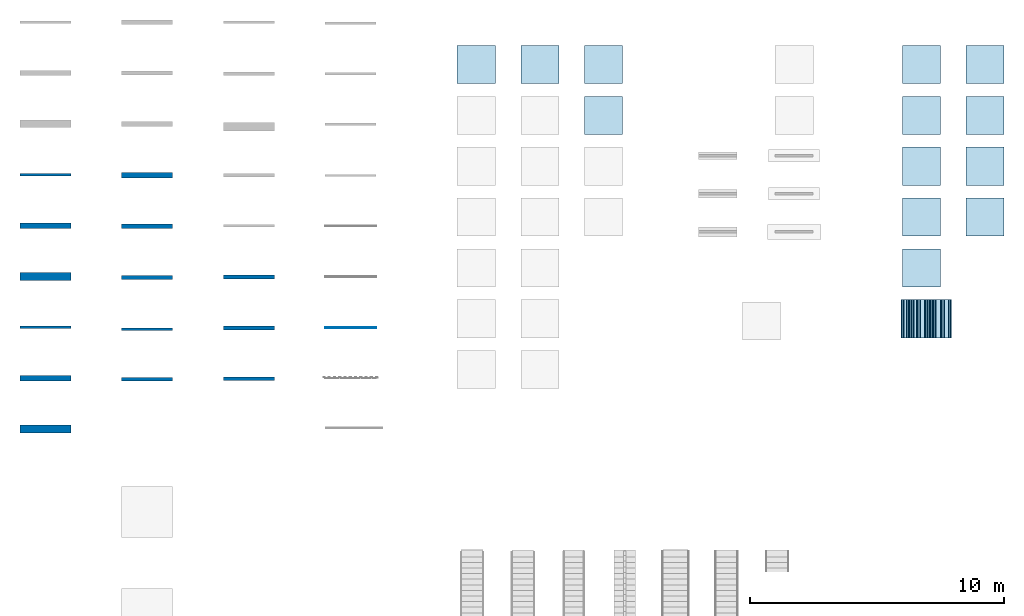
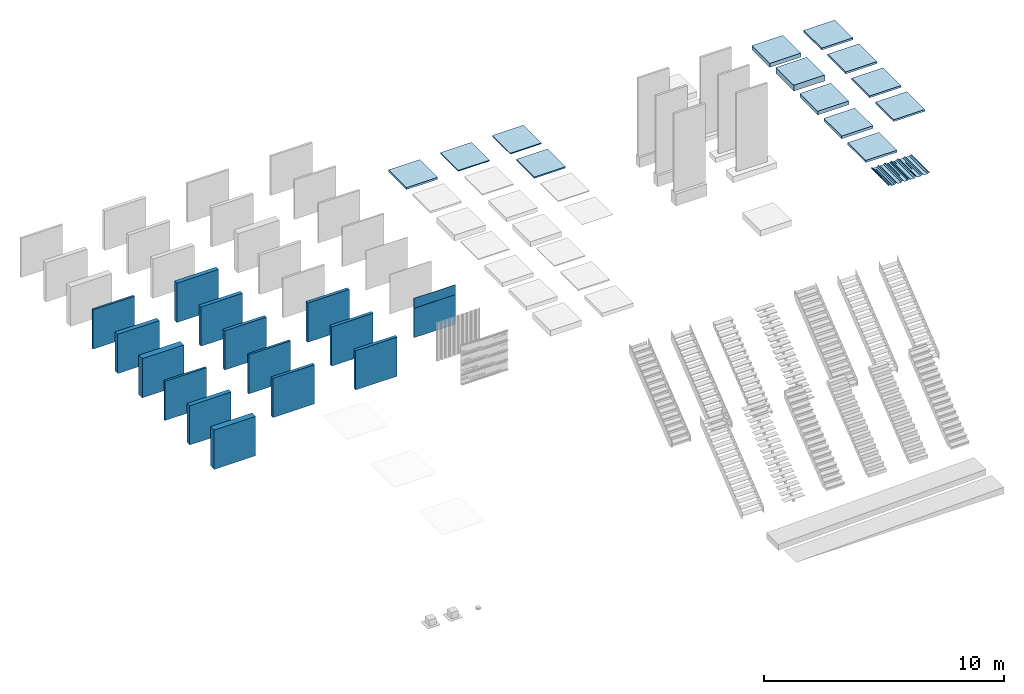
# One storey, part 4 of 13: 16 walls, 13 slabs, 2 plates, 10 elements without a shape of their own.
"""IFC2X3 building model written with IfcOpenShell, lengths in millimetres."""

from ifc_helpers import new_model, entity, si_unit, converted_unit, derived_unit, direction, frame, frame_2d, origin, origin_2d_with_axis, place, context, subcontext, project, spatial, polyline, rectangle, outline, extrude, source, transform, mapped, material, layer, layer_set, layer_usage, type_object, type_shapes, element, aggregate, save


model = new_model("IFC2X3")

# Units and contexts
model_context = context("Model", 3, precision=0.01, world=origin(), true_north=direction((6.12303176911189e-17, 1.0)))
body_context = subcontext(model_context, "Body", "Model", "MODEL_VIEW")
ifc_project = project(units=[si_unit("LENGTHUNIT", "METRE", prefix="MILLI"), si_unit("AREAUNIT", "SQUARE_METRE"), si_unit("VOLUMEUNIT", "CUBIC_METRE"), converted_unit("PLANEANGLEUNIT", "DEGREE", entity("IfcRatioMeasure", 0.0174532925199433), si_unit("PLANEANGLEUNIT", "RADIAN"), dimensions=[0, 0, 0, 0, 0, 0, 0]), si_unit("MASSUNIT", "GRAM", prefix="KILO"), si_unit("TIMEUNIT", "SECOND"), si_unit("FREQUENCYUNIT", "HERTZ"), si_unit("THERMODYNAMICTEMPERATUREUNIT", "KELVIN"), derived_unit("THERMALTRANSMITTANCEUNIT", [(si_unit("MASSUNIT", "GRAM", prefix="KILO"), 1), (si_unit("THERMODYNAMICTEMPERATUREUNIT", "KELVIN"), -1), (si_unit("TIMEUNIT", "SECOND"), -3)]), derived_unit("VOLUMETRICFLOWRATEUNIT", [(si_unit("LENGTHUNIT", "METRE"), 3), (si_unit("TIMEUNIT", "SECOND"), -1)]), si_unit("ELECTRICCURRENTUNIT", "AMPERE"), si_unit("ELECTRICVOLTAGEUNIT", "VOLT"), si_unit("POWERUNIT", "WATT")], contexts=[model_context])

# Site, building, storey
site_placement = place(None, origin())
site = spatial("IfcSite", under=ifc_project, at=site_placement, Name="Surface", CompositionType="ELEMENT")
building_placement = place(site_placement, origin())
building = spatial("IfcBuilding", under=site, at=building_placement, CompositionType="ELEMENT")
storey_placement = place(building_placement, origin())
storey = spatial("IfcBuildingStorey", under=building, at=storey_placement, Name="00_begane grond", CompositionType="ELEMENT", Elevation=0.0)

# Roof, plates
curtain_wall_type = type_object("IfcCurtainWallType", Name="Sloped Glazing:27_CW_SAB58KD_945mm", PredefinedType="NOTDEFINED")
roof_1_placement = place(storey_placement, origin())
roof_1 = element("IfcRoof", 1, at=roof_1_placement, inside=storey, type_object=curtain_wall_type, Name="Sloped Glazing:27_CW_SAB58KD_945mm", ObjectType="Sloped Glazing:27_CW_SAB58KD_945mm:1393", ShapeType="NOTDEFINED")
plate_type_1 = type_object("IfcPlateType", Name="SAB58KD_945", PredefinedType="NOTDEFINED")
shared_shape_1 = source(origin(), body_context, "Body", "SweptSolid", [
    extrude(outline(polyline([(-41.6883369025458, -6.31626557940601), (-38.0537855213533, -6.31626557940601), (-6.51645922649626, 14.7086186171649), (-5.11855484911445, 18.063589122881), (44.5780594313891, 51.1946653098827), (119.78533029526, 31.0648525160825), (162.475119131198, 59.5247117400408), (172.819626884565, 136.689043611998), (222.51559042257, 169.819685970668), (226.150141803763, 169.819685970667), (257.68746809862, 190.844570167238), (259.085372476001, 194.199540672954), (308.781608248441, 227.330364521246), (383.988986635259, 207.200623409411), (416.028687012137, 228.560423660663), (397.342743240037, 286.371121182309), (408.300957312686, 293.676597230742), (418.90416186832, 283.514998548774), (420.28798638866, 284.958961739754), (408.526464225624, 296.23063602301), (394.974288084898, 287.195851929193), (413.660231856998, 229.385154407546), (383.632257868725, 209.366505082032), (308.424879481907, 229.496246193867), (257.472122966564, 195.527741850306), (256.074218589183, 192.17277134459), (225.544590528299, 171.819685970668), (221.910039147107, 171.819685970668), (170.95755361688, 137.851362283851), (160.613045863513, 60.6870304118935), (119.428602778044, 33.2307350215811), (44.2213319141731, 53.3605478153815), (-6.73180435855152, 19.3917903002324), (-8.12970873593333, 16.0368197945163), (-38.6593367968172, -4.31626557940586), (-42.2938881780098, -4.31626557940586), (-93.2479062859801, -38.2856109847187), (-103.592414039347, -115.449942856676), (-144.776857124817, -142.906238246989), (-219.984127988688, -122.776425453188), (-270.937264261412, -156.745182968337), (-272.335168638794, -160.100153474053), (-302.864796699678, -180.453238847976), (-306.49934808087, -180.453238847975), (-357.44939838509, -214.419939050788), (-368.151786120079, -294.22655842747), (-407.873068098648, -320.707413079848), (-423.86478432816, -316.569685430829), (-432.461053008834, -311.156883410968), (-433.526726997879, -312.849319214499), (-424.667084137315, -318.427959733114), (-407.507999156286, -322.867734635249), (-366.289758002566, -295.388907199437), (-355.587370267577, -215.582287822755), (-305.893796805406, -182.453238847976), (-302.259245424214, -182.453238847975), (-270.721919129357, -161.428354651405), (-269.324014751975, -158.073384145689), (-219.627400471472, -124.942307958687), (-144.420129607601, -145.072120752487), (-101.730340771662, -116.612261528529), (-91.3858330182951, -39.4479296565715), (-41.6883369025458, -6.31626557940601)])), frame((534.253619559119, 42.597426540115, 0.0), z_axis=(0.0, 0.0, 1.0), x_axis=(0.832050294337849, -0.55470019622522, 0.0)), (0.0, 0.0, 1.0), 1500.0),
])
type_shapes(plate_type_1, [shared_shape_1])
plate_1_placement = place(roof_1_placement, frame((34647.8084880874, -13415.0, 64.0), z_axis=(0.0, 1.0, 0.0), x_axis=(1.0, 0.0, 0.0)))
plate_1 = element("IfcPlate", 2, at=plate_1_placement, type_object=plate_type_1, Name="27_CWP_SAB58KD_945:SAB58KD_945", ObjectType="SAB58KD_945", context=body_context, shape_type="MappedRepresentation", body=[
    mapped(shared_shape_1, transform((0.0, 0.0, 0.0), scale=1.0)),
])
plate_type_2 = type_object("IfcPlateType", Name="SAB58KD_945", PredefinedType="NOTDEFINED")
shared_shape_2 = source(origin(), body_context, "Body", "SweptSolid", [
    extrude(outline(polyline([(-41.688336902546, -6.31626557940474), (-38.0537855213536, -6.31626557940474), (-6.51645922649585, 14.7086186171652), (-5.11855484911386, 18.0635891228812), (44.5780594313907, 51.1946653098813), (119.785330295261, 31.0648525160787), (162.4751191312, 59.5247117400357), (172.819626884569, 136.689043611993), (222.515590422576, 169.819685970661), (226.150141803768, 169.81968597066), (257.687468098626, 190.84457016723), (259.085372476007, 194.199540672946), (308.781608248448, 227.330364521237), (383.988986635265, 207.200623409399), (416.028687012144, 228.56042366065), (397.342743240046, 286.371121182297), (408.300957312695, 293.676597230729), (418.904161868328, 283.514998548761), (420.287986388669, 284.958961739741), (408.526464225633, 296.230636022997), (394.974288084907, 287.19585192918), (413.660231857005, 229.385154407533), (383.632257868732, 209.36650508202), (308.424879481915, 229.496246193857), (257.47212296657, 195.527741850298), (256.074218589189, 192.172771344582), (225.544590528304, 171.81968597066), (221.910039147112, 171.819685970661), (170.957553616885, 137.851362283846), (160.613045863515, 60.6870304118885), (119.428602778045, 33.2307350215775), (44.2213319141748, 53.3605478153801), (-6.73180435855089, 19.3917903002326), (-8.1297087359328, 16.0368197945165), (-38.6593367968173, -4.31626557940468), (-42.2938881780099, -4.31626557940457), (-93.2479062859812, -38.2856109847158), (-103.592414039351, -115.449942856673), (-144.776857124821, -142.906238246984), (-219.984127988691, -122.776425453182), (-270.937264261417, -156.745182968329), (-272.335168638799, -160.100153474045), (-302.864796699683, -180.453238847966), (-306.499348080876, -180.453238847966), (-357.449398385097, -214.419939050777), (-368.151786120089, -294.226558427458), (-407.873068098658, -320.707413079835), (-423.86478432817, -316.569685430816), (-432.461053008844, -311.156883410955), (-433.526726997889, -312.849319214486), (-424.667084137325, -318.427959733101), (-407.507999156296, -322.867734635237), (-366.289758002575, -295.388907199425), (-355.587370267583, -215.582287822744), (-305.893796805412, -182.453238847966), (-302.259245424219, -182.453238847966), (-270.721919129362, -161.428354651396), (-269.32401475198, -158.07338414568), (-219.627400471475, -124.94230795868), (-144.420129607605, -145.072120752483), (-101.730340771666, -116.612261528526), (-91.3858330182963, -39.4479296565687), (-41.688336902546, -6.31626557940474)])), frame((534.253619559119, 42.597426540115, 0.0), z_axis=(0.0, 0.0, 1.0), x_axis=(0.832050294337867, -0.554700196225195, 0.0)), (0.0, 0.0, 1.0), 1500.0),
])
type_shapes(plate_type_2, [shared_shape_2])
plate_2_placement = place(roof_1_placement, frame((35592.8084880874, -13415.0, 64.0), z_axis=(0.0, 1.0, 0.0), x_axis=(1.0, 0.0, 0.0)))
plate_2 = element("IfcPlate", 3, at=plate_2_placement, type_object=plate_type_2, Name="27_CWP_SAB58KD_945:SAB58KD_945", ObjectType="SAB58KD_945", context=body_context, shape_type="MappedRepresentation", body=[
    mapped(shared_shape_2, transform((0.0, 0.0, 0.0), scale=1.0)),
])
aggregate(roof_1, [plate_1, plate_2])

# Slabs
ifc_material_1 = material(Name="Default")
ifc_layer_1 = layer(ifc_material_1, 100.0)
ifc_layer_set_1 = layer_set([ifc_layer_1], Name="Floor:13_FL_generiek_100")
ifc_layer_usage_1 = layer_usage(ifc_layer_set_1, "AXIS3", "POSITIVE", 0.0)
slab_1_placement = place(storey_placement, origin())
element("IfcSlab", 4, at=slab_1_placement, inside=storey, material=ifc_layer_usage_1, Name="Floor:13_FL_generiek_100", ObjectType="Floor:13_FL_generiek_100", PredefinedType="FLOOR", context=body_context, shape_type="SweptSolid", body=[
    extrude(rectangle(XDim=1500.0, YDim=1500.0, at=frame_2d((-1.13686837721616e-13, 0.0), x_axis=(1.0, 0.0))), frame((17943.3473849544, -2665.0, 0.0), z_axis=(0.0, 0.0, -1.0), x_axis=(0.0, 1.0, 0.0)), (0.0, 0.0, 1.0), 100.0),
])
ifc_material_2 = material(Name="28_beton_prefab_C45_55")
ifc_layer_2 = layer(ifc_material_2, 50.0)
ifc_layer_set_2 = layer_set([ifc_layer_2], Name="Floor:23_FL_breedplaat_50")
ifc_layer_usage_2 = layer_usage(ifc_layer_set_2, "AXIS3", "POSITIVE", 0.0)
slab_2_placement = place(storey_placement, origin())
element("IfcSlab", 5, at=slab_2_placement, inside=storey, material=ifc_layer_usage_2, Name="Floor:23_FL_breedplaat_50", ObjectType="Floor:23_FL_breedplaat_50", PredefinedType="FLOOR", context=body_context, shape_type="SweptSolid", body=[
    extrude(rectangle(XDim=1500.0, YDim=1500.00000000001, at=frame_2d((-1.13686837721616e-13, 0.0), x_axis=(1.0, 0.0))), frame((20443.3473849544, -2665.0, 0.0), z_axis=(0.0, 0.0, -1.0), x_axis=(0.0, 1.0, 0.0)), (0.0, 0.0, 1.0), 50.0),
])
ifc_material_3 = material(Name="43_dekvloer_zandcement")
ifc_layer_3 = layer(ifc_material_3, 50.0)
ifc_layer_set_3 = layer_set([ifc_layer_3], Name="Floor:43_FL_cementdekvloer_50")
ifc_layer_usage_3 = layer_usage(ifc_layer_set_3, "AXIS3", "POSITIVE", 0.0)
slab_3_placement = place(storey_placement, origin())
element("IfcSlab", 6, at=slab_3_placement, inside=storey, material=ifc_layer_usage_3, Name="Floor:43_FL_cementdekvloer_50", ObjectType="Floor:43_FL_cementdekvloer_50", PredefinedType="FLOOR", context=body_context, shape_type="SweptSolid", body=[
    extrude(rectangle(XDim=1500.0, YDim=1500.00000000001, at=frame_2d((1.70530256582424e-13, 0.0), x_axis=(1.0, 0.0))), frame((22943.3473849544, -2665.0, 0.0), z_axis=(0.0, 0.0, -1.0), x_axis=(0.0, 1.0, 0.0)), (0.0, 0.0, 1.0), 50.0),
])
ifc_layer_4 = layer(ifc_material_3, 70.0)
ifc_layer_set_4 = layer_set([ifc_layer_4], Name="Floor:43_FL_cementdekvloer_70")
ifc_layer_usage_4 = layer_usage(ifc_layer_set_4, "AXIS3", "POSITIVE", 0.0)
slab_4_placement = place(storey_placement, origin())
element("IfcSlab", 7, at=slab_4_placement, inside=storey, material=ifc_layer_usage_4, Name="Floor:43_FL_cementdekvloer_70", ObjectType="Floor:43_FL_cementdekvloer_70", PredefinedType="FLOOR", context=body_context, shape_type="SweptSolid", body=[
    extrude(rectangle(XDim=1500.0, YDim=1500.00000000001, at=origin_2d_with_axis()), frame((22943.3473849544, -4665.0, 0.0), z_axis=(0.0, 0.0, -1.0), x_axis=(0.0, 1.0, 0.0)), (0.0, 0.0, 1.0), 70.0),
])

# Roof, slab
roof_2_placement = place(storey_placement, frame((34693.3473849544, -3415.0, 0.0)))
roof_2 = element("IfcRoof", 8, at=roof_2_placement, inside=storey, Name="Basic Roof:27_RO_generiek_200", ObjectType="Basic Roof:27_RO_generiek_200", ShapeType="NOTDEFINED")
ifc_layer_5 = layer(ifc_material_1, 200.0)
ifc_layer_set_5 = layer_set([ifc_layer_5], Name="Basic Roof:27_RO_generiek_200")
slab_5_placement = place(roof_2_placement, origin())
slab_5 = element("IfcSlab", 9, at=slab_5_placement, material=ifc_layer_set_5, Name="Basic Roof:27_RO_generiek_200", ObjectType="Basic Roof:27_RO_generiek_200", PredefinedType="ROOF", context=body_context, shape_type="SweptSolid", body=[
    extrude(rectangle(XDim=1500.0, YDim=1500.0, at=frame_2d((-2.1600499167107e-12, 0.0), x_axis=(1.0, 0.0))), frame((750.0, 750.0, 0.0)), (0.0, 0.0, 1.0), 200.0),
])
aggregate(roof_2, [slab_5])

roof_3_placement = place(storey_placement, frame((34693.3473849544, -5415.0, 0.0)))
roof_3 = element("IfcRoof", 10, at=roof_3_placement, inside=storey, Name="Basic Roof:27_RO_generiek_300", ObjectType="Basic Roof:27_RO_generiek_300", ShapeType="NOTDEFINED")
ifc_layer_6 = layer(ifc_material_1, 300.0)
ifc_layer_set_6 = layer_set([ifc_layer_6], Name="Basic Roof:27_RO_generiek_300")
slab_6_placement = place(roof_3_placement, origin())
slab_6 = element("IfcSlab", 11, at=slab_6_placement, material=ifc_layer_set_6, Name="Basic Roof:27_RO_generiek_300", ObjectType="Basic Roof:27_RO_generiek_300", PredefinedType="ROOF", context=body_context, shape_type="SweptSolid", body=[
    extrude(rectangle(XDim=1500.0, YDim=1500.0, at=frame_2d((2.1600499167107e-12, 0.0), x_axis=(1.0, 0.0))), frame((750.0, 750.0, 0.0)), (0.0, 0.0, 1.0), 300.0),
])
aggregate(roof_3, [slab_6])

roof_4_placement = place(storey_placement, frame((37193.3473849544, -3415.0, 0.0)))
roof_4 = element("IfcRoof", 12, at=roof_4_placement, inside=storey, Name="Basic Roof:47_RO_isolatie_PIR_bitumen_82_80-2", ObjectType="Basic Roof:47_RO_isolatie_PIR_bitumen_82_80-2", ShapeType="NOTDEFINED")
ifc_material_4 = material(Name="47_bitumen")
ifc_layer_7 = layer(ifc_material_4, 2.0)
ifc_material_5 = material(Name="20_isolatie_PIR")
ifc_layer_8 = layer(ifc_material_5, 100.0)
ifc_layer_set_7 = layer_set([ifc_layer_7, ifc_layer_8], Name="Basic Roof:47_RO_isolatie_PIR_bitumen_82_80-2")
slab_7_placement = place(roof_4_placement, origin())
slab_7 = element("IfcSlab", 13, at=slab_7_placement, material=ifc_layer_set_7, Name="Basic Roof:47_RO_isolatie_PIR_bitumen_82_80-2", ObjectType="Basic Roof:47_RO_isolatie_PIR_bitumen_82_80-2", PredefinedType="ROOF", context=body_context, shape_type="SweptSolid", body=[
    extrude(rectangle(XDim=1500.0, YDim=1500.0, at=frame_2d((2.1600499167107e-12, 0.0), x_axis=(1.0, 0.0))), frame((750.0, 750.0, 0.0)), (0.0, 0.0, 1.0), 102.0),
])
aggregate(roof_4, [slab_7])

roof_5_placement = place(storey_placement, frame((37193.3473849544, -5415.0, 0.0)))
roof_5 = element("IfcRoof", 14, at=roof_5_placement, inside=storey, Name="Basic Roof:47_RO_isolatie_EPS_bitumen_102_100-2", ObjectType="Basic Roof:47_RO_isolatie_EPS_bitumen_102_100-2", ShapeType="NOTDEFINED")
ifc_layer_9 = layer(ifc_material_4, 2.0)
ifc_material_6 = material(Name="20_isolatie_EPS")
ifc_layer_10 = layer(ifc_material_6, 100.0)
ifc_layer_set_8 = layer_set([ifc_layer_9, ifc_layer_10], Name="Basic Roof:47_RO_isolatie_EPS_bitumen_102_100-2")
slab_8_placement = place(roof_5_placement, origin())
slab_8 = element("IfcSlab", 15, at=slab_8_placement, material=ifc_layer_set_8, Name="Basic Roof:47_RO_isolatie_EPS_bitumen_102_100-2", ObjectType="Basic Roof:47_RO_isolatie_EPS_bitumen_102_100-2", PredefinedType="ROOF", context=body_context, shape_type="SweptSolid", body=[
    extrude(rectangle(XDim=1500.0, YDim=1500.0, at=frame_2d((-2.1600499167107e-12, 0.0), x_axis=(1.0, 0.0))), frame((750.0, 750.0, 0.0)), (0.0, 0.0, 1.0), 102.0),
])
aggregate(roof_5, [slab_8])

roof_6_placement = place(storey_placement, frame((34693.3473849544, -7415.0, 0.0)))
roof_6 = element("IfcRoof", 16, at=roof_6_placement, inside=storey, Name="Basic Roof:27_RO_hout_underlayment_189_171-18", ObjectType="Basic Roof:27_RO_hout_underlayment_189_171-18", ShapeType="NOTDEFINED")
ifc_material_7 = material(Name="27_beplating_underlayment")
ifc_layer_11 = layer(ifc_material_7, 18.0)
ifc_material_8 = material(Name="27_houten_balklaag_geventileerd")
ifc_layer_12 = layer(ifc_material_8, 171.0)
ifc_layer_set_9 = layer_set([ifc_layer_11, ifc_layer_12], Name="Basic Roof:27_RO_hout_underlayment_189_171-18")
slab_9_placement = place(roof_6_placement, origin())
slab_9 = element("IfcSlab", 17, at=slab_9_placement, material=ifc_layer_set_9, Name="Basic Roof:27_RO_hout_underlayment_189_171-18", ObjectType="Basic Roof:27_RO_hout_underlayment_189_171-18", PredefinedType="ROOF", context=body_context, shape_type="SweptSolid", body=[
    extrude(rectangle(XDim=1500.0, YDim=1500.0, at=frame_2d((-2.1600499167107e-12, 0.0), x_axis=(1.0, 0.0))), frame((750.0, 750.0, 0.0)), (0.0, 0.0, 1.0), 189.0),
])
aggregate(roof_6, [slab_9])

roof_7_placement = place(storey_placement, frame((34693.3473849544, -9415.0, 0.0)))
roof_7 = element("IfcRoof", 18, at=roof_7_placement, inside=storey, Name="Basic Roof:27_RO_dakplaat_enkelschalig_PIR_135_33-90-12", ObjectType="Basic Roof:27_RO_dakplaat_enkelschalig_PIR_135_33-90-12", ShapeType="NOTDEFINED")
ifc_material_9 = material(Name="00_lucht_spouw_dak_geventileerd")
ifc_layer_13 = layer(ifc_material_9, 33.0)
ifc_layer_14 = layer(ifc_material_5, 90.0)
ifc_material_10 = material(Name="20_beplating_MDF")
ifc_layer_15 = layer(ifc_material_10, 12.0)
ifc_layer_set_10 = layer_set([ifc_layer_13, ifc_layer_14, ifc_layer_15], Name="Basic Roof:27_RO_dakplaat_enkelschalig_PIR_135_33-90-12")
slab_10_placement = place(roof_7_placement, origin())
slab_10 = element("IfcSlab", 19, at=slab_10_placement, material=ifc_layer_set_10, Name="Basic Roof:27_RO_dakplaat_enkelschalig_PIR_135_33-90-12", ObjectType="Basic Roof:27_RO_dakplaat_enkelschalig_PIR_135_33-90-12", PredefinedType="ROOF", context=body_context, shape_type="SweptSolid", body=[
    extrude(rectangle(XDim=1500.0, YDim=1500.0, at=frame_2d((2.1600499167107e-12, 0.0), x_axis=(1.0, 0.0))), frame((750.0, 750.0, 0.0)), (0.0, 0.0, 1.0), 135.0),
])
aggregate(roof_7, [slab_10])

roof_8_placement = place(storey_placement, frame((37193.3473849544, -7415.0, 0.0)))
roof_8 = element("IfcRoof", 20, at=roof_8_placement, inside=storey, Name="Basic Roof:47_RO_dakpan_grijs_300x300", ObjectType="Basic Roof:47_RO_dakpan_grijs_300x300", ShapeType="NOTDEFINED")
ifc_material_11 = material(Name="47_dakpan_grijs")
ifc_layer_16 = layer(ifc_material_11, 70.0)
ifc_material_12 = material(Name="47_panlat_geventileerd")
ifc_layer_17 = layer(ifc_material_12, 22.0)
ifc_layer_set_11 = layer_set([ifc_layer_16, ifc_layer_17], Name="Basic Roof:47_RO_dakpan_grijs_300x300")
slab_11_placement = place(roof_8_placement, origin())
slab_11 = element("IfcSlab", 21, at=slab_11_placement, material=ifc_layer_set_11, Name="Basic Roof:47_RO_dakpan_grijs_300x300", ObjectType="Basic Roof:47_RO_dakpan_grijs_300x300", PredefinedType="ROOF", context=body_context, shape_type="SweptSolid", body=[
    extrude(rectangle(XDim=1500.0, YDim=1500.0, at=frame_2d((2.1600499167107e-12, 5.11590769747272e-13), x_axis=(1.0, 0.0))), frame((750.0, 750.0, 0.0)), (0.0, 0.0, 1.0), 92.0),
])
aggregate(roof_8, [slab_11])

roof_9_placement = place(storey_placement, frame((37193.3473849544, -9415.0, 0.0)))
roof_9 = element("IfcRoof", 22, at=roof_9_placement, inside=storey, Name="Basic Roof:47_RO_dakpan_rood_300x300", ObjectType="Basic Roof:47_RO_dakpan_rood_300x300", ShapeType="NOTDEFINED")
ifc_material_13 = material(Name="47_dakpan_rood")
ifc_layer_18 = layer(ifc_material_13, 70.0)
ifc_layer_19 = layer(ifc_material_12, 22.0)
ifc_layer_set_12 = layer_set([ifc_layer_18, ifc_layer_19], Name="Basic Roof:47_RO_dakpan_rood_300x300")
slab_12_placement = place(roof_9_placement, origin())
slab_12 = element("IfcSlab", 23, at=slab_12_placement, material=ifc_layer_set_12, Name="Basic Roof:47_RO_dakpan_rood_300x300", ObjectType="Basic Roof:47_RO_dakpan_rood_300x300", PredefinedType="ROOF", context=body_context, shape_type="SweptSolid", body=[
    extrude(rectangle(XDim=1500.0, YDim=1500.0, at=frame_2d((-2.1600499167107e-12, 5.11590769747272e-13), x_axis=(1.0, 0.0))), frame((750.0, 750.0, 0.0)), (0.0, 0.0, 1.0), 92.0),
])
aggregate(roof_9, [slab_12])

roof_10_placement = place(storey_placement, frame((34693.3473849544, -11415.0, 0.0)))
roof_10 = element("IfcRoof", 24, at=roof_10_placement, inside=storey, Name="Basic Roof:27_RO_dakplaat_sandwich_PIR_106_20-3-80-3", ObjectType="Basic Roof:27_RO_dakplaat_sandwich_PIR_106_20-3-80-3", ShapeType="NOTDEFINED")
ifc_material_14 = material(Name="27_tengels_geventileerd")
ifc_layer_20 = layer(ifc_material_14, 20.0)
ifc_layer_21 = layer(ifc_material_10, 3.0)
ifc_layer_22 = layer(ifc_material_5, 80.0)
ifc_layer_23 = layer(ifc_material_10, 3.0)
ifc_layer_set_13 = layer_set([ifc_layer_20, ifc_layer_21, ifc_layer_22, ifc_layer_23], Name="Basic Roof:27_RO_dakplaat_sandwich_PIR_106_20-3-80-3")
slab_13_placement = place(roof_10_placement, origin())
slab_13 = element("IfcSlab", 25, at=slab_13_placement, material=ifc_layer_set_13, Name="Basic Roof:27_RO_dakplaat_sandwich_PIR_106_20-3-80-3", ObjectType="Basic Roof:27_RO_dakplaat_sandwich_PIR_106_20-3-80-3", PredefinedType="ROOF", context=body_context, shape_type="SweptSolid", body=[
    extrude(rectangle(XDim=1500.0, YDim=1500.0, at=frame_2d((-2.1600499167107e-12, 0.0), x_axis=(1.0, 0.0))), frame((750.0, 750.0, 0.0)), (0.0, 0.0, 1.0), 106.0),
])
aggregate(roof_10, [slab_13])

# Walls
ifc_material_15 = material(Name="20_baksteen_wf_210x100x50_10mm_voeg_halfsteens_rood_genuanceerd")
ifc_layer_24 = layer(ifc_material_15, 100.0)
ifc_layer_set_14 = layer_set([ifc_layer_24], Name="Basic Wall:21_WA_mw_100")
ifc_layer_usage_5 = layer_usage(ifc_layer_set_14, "AXIS2", "NEGATIVE", 50.0)
wall_type_1 = type_object("IfcWallType", Name="Basic Wall:21_WA_mw_100", PredefinedType="STANDARD", material=ifc_layer_set_14)
wall_1_placement = place(storey_placement, frame((0.0, -13000.0, 0.0)))
element("IfcWallStandardCase", 26, at=wall_1_placement, inside=storey, type_object=wall_type_1, material=ifc_layer_usage_5, Name="Basic Wall:21_WA_mw_100", ObjectType="Basic Wall:21_WA_mw_100", context=body_context, shape_type="SweptSolid", body=[
    extrude(rectangle(XDim=2000.0, YDim=99.9999999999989, at=frame_2d((1000.0, 5.32907051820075e-13), x_axis=(-1.0, 0.0))), origin(), (0.0, 0.0, 1.0), 2000.0),
])
ifc_layer_25 = layer(ifc_material_15, 210.0)
ifc_layer_set_15 = layer_set([ifc_layer_25], Name="Basic Wall:21_WA_mw_210")
ifc_layer_usage_6 = layer_usage(ifc_layer_set_15, "AXIS2", "NEGATIVE", 105.0)
wall_type_2 = type_object("IfcWallType", Name="Basic Wall:21_WA_mw_210", PredefinedType="STANDARD", material=ifc_layer_set_15)
wall_2_placement = place(storey_placement, frame((0.0, -15000.0, 0.0)))
element("IfcWallStandardCase", 27, at=wall_2_placement, inside=storey, type_object=wall_type_2, material=ifc_layer_usage_6, Name="Basic Wall:21_WA_mw_210", ObjectType="Basic Wall:21_WA_mw_210", context=body_context, shape_type="SweptSolid", body=[
    extrude(rectangle(XDim=2000.0, YDim=210.0, at=frame_2d((1000.0, 5.32907051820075e-13), x_axis=(-1.0, 0.0))), origin(), (0.0, 0.0, 1.0), 2000.0),
])
ifc_layer_26 = layer(ifc_material_15, 100.0)
ifc_material_16 = material(Name="00_lucht_spouw_muur_geventileerd")
ifc_layer_27 = layer(ifc_material_16, 100.0)
ifc_layer_28 = layer(ifc_material_15, 100.0)
ifc_layer_set_16 = layer_set([ifc_layer_26, ifc_layer_27, ifc_layer_28], Name="Basic Wall:21_WA_mw_spouw_mw_300_100-100-100")
ifc_layer_usage_7 = layer_usage(ifc_layer_set_16, "AXIS2", "NEGATIVE", 150.0)
wall_type_3 = type_object("IfcWallType", Name="Basic Wall:21_WA_mw_spouw_mw_300_100-100-100", PredefinedType="STANDARD", material=ifc_layer_set_16)
wall_3_placement = place(storey_placement, frame((0.0, -17000.0, 0.0)))
element("IfcWallStandardCase", 28, at=wall_3_placement, inside=storey, type_object=wall_type_3, material=ifc_layer_usage_7, Name="Basic Wall:21_WA_mw_spouw_mw_300_100-100-100", ObjectType="Basic Wall:21_WA_mw_spouw_mw_300_100-100-100", context=body_context, shape_type="SweptSolid", body=[
    extrude(rectangle(XDim=2000.0, YDim=300.000000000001, at=frame_2d((1000.0, 5.40012479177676e-13), x_axis=(-1.0, 0.0))), origin(), (0.0, 0.0, 1.0), 2000.0),
])
ifc_material_17 = material(Name="00_baksteen_bestaand")
ifc_layer_29 = layer(ifc_material_17, 100.0)
ifc_layer_set_17 = layer_set([ifc_layer_29], Name="Basic Wall:21_WA_mw-bestaand_100")
ifc_layer_usage_8 = layer_usage(ifc_layer_set_17, "AXIS2", "NEGATIVE", 50.0)
wall_type_4 = type_object("IfcWallType", Name="Basic Wall:21_WA_mw-bestaand_100", PredefinedType="STANDARD", material=ifc_layer_set_17)
wall_4_placement = place(storey_placement, frame((0.0, -7000.0, 0.0)))
element("IfcWallStandardCase", 29, at=wall_4_placement, inside=storey, type_object=wall_type_4, material=ifc_layer_usage_8, Name="Basic Wall:21_WA_mw-bestaand_100", ObjectType="Basic Wall:21_WA_mw-bestaand_100", context=body_context, shape_type="SweptSolid", body=[
    extrude(rectangle(XDim=2000.0, YDim=99.9999999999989, at=frame_2d((1000.0, -7.105427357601e-15), x_axis=(-1.0, 0.0))), origin(), (0.0, 0.0, 1.0), 2000.0),
])
ifc_layer_30 = layer(ifc_material_17, 210.0)
ifc_layer_set_18 = layer_set([ifc_layer_30], Name="Basic Wall:21_WA_mw_bestaand_210")
ifc_layer_usage_9 = layer_usage(ifc_layer_set_18, "AXIS2", "NEGATIVE", 105.0)
wall_type_5 = type_object("IfcWallType", Name="Basic Wall:21_WA_mw_bestaand_210", PredefinedType="STANDARD", material=ifc_layer_set_18)
wall_5_placement = place(storey_placement, frame((0.0, -9000.0, 0.0)))
element("IfcWallStandardCase", 30, at=wall_5_placement, inside=storey, type_object=wall_type_5, material=ifc_layer_usage_9, Name="Basic Wall:21_WA_mw_bestaand_210", ObjectType="Basic Wall:21_WA_mw_bestaand_210", context=body_context, shape_type="SweptSolid", body=[
    extrude(rectangle(XDim=2000.0, YDim=210.0, at=frame_2d((1000.0, -1.4210854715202e-14), x_axis=(-1.0, 0.0))), origin(), (0.0, 0.0, 1.0), 2000.0),
])
ifc_layer_31 = layer(ifc_material_17, 100.0)
ifc_layer_32 = layer(ifc_material_16, 100.0)
ifc_layer_33 = layer(ifc_material_17, 100.0)
ifc_layer_set_19 = layer_set([ifc_layer_31, ifc_layer_32, ifc_layer_33], Name="Basic Wall:21_WA_mw-bestaand_spouw_mw-bestaand_300_100-100-100")
ifc_layer_usage_10 = layer_usage(ifc_layer_set_19, "AXIS2", "NEGATIVE", 150.0)
wall_type_6 = type_object("IfcWallType", Name="Basic Wall:21_WA_mw-bestaand_spouw_mw-bestaand_300_100-100-100", PredefinedType="STANDARD", material=ifc_layer_set_19)
wall_6_placement = place(storey_placement, frame((0.0, -11000.0, 0.0)))
element("IfcWallStandardCase", 31, at=wall_6_placement, inside=storey, type_object=wall_type_6, material=ifc_layer_usage_10, Name="Basic Wall:21_WA_mw-bestaand_spouw_mw-bestaand_300_100-100-100", ObjectType="Basic Wall:21_WA_mw-bestaand_spouw_mw-bestaand_300_100-100-100", context=body_context, shape_type="SweptSolid", body=[
    extrude(rectangle(XDim=2000.0, YDim=300.000000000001, at=frame_2d((1000.0, 5.40012479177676e-13), x_axis=(-1.0, 0.0))), origin(), (0.0, 0.0, 1.0), 2000.0),
])
ifc_layer_34 = layer(ifc_material_15, 100.0)
ifc_layer_35 = layer(ifc_material_16, 30.0)
ifc_material_18 = material(Name="20_isolatie_steenwol")
ifc_layer_36 = layer(ifc_material_18, 70.0)
ifc_layer_set_20 = layer_set([ifc_layer_34, ifc_layer_35, ifc_layer_36], Name="Basic Wall:21_WA_mw_spouw_iso-sw_200_100-30-70")
ifc_layer_usage_11 = layer_usage(ifc_layer_set_20, "AXIS2", "NEGATIVE", 100.0)
wall_type_7 = type_object("IfcWallType", Name="Basic Wall:21_WA_mw_spouw_iso-sw_200_100-30-70", PredefinedType="STANDARD", material=ifc_layer_set_20)
wall_7_placement = place(storey_placement, frame((4000.0, -7020.0, 0.0)))
element("IfcWallStandardCase", 32, at=wall_7_placement, inside=storey, type_object=wall_type_7, material=ifc_layer_usage_11, Name="Basic Wall:21_WA_mw_spouw_iso-sw_200_100-30-70", ObjectType="Basic Wall:21_WA_mw_spouw_iso-sw_200_100-30-70", context=body_context, shape_type="SweptSolid", body=[
    extrude(rectangle(XDim=2000.0, YDim=200.0, at=frame_2d((1000.0, -7.105427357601e-15), x_axis=(-1.0, 0.0))), origin(), (0.0, 0.0, 1.0), 2000.0),
])
ifc_material_19 = material(Name="41_hout_hardhout_geveldelen_donkerblauw_horizontaal")
ifc_layer_37 = layer(ifc_material_19, 20.0)
ifc_material_20 = material(Name="40_regelwerk_geventileerd")
ifc_layer_38 = layer(ifc_material_20, 30.0)
ifc_layer_39 = layer(ifc_material_20, 10.0)
ifc_layer_40 = layer(ifc_material_18, 120.0)
ifc_layer_set_21 = layer_set([ifc_layer_37, ifc_layer_38, ifc_layer_39, ifc_layer_40], Name="Basic Wall:21_WA_hout-wrc-hor_rachel_tengel_iso-sw_180_20-30-10-120")
ifc_layer_usage_12 = layer_usage(ifc_layer_set_21, "AXIS2", "NEGATIVE", 90.0)
wall_type_8 = type_object("IfcWallType", Name="Basic Wall:21_WA_hout-wrc-hor_rachel_tengel_iso-sw_180_20-30-10-120", PredefinedType="STANDARD", material=ifc_layer_set_21)
wall_8_placement = place(storey_placement, frame((4000.0, -9030.0, 0.0)))
element("IfcWallStandardCase", 33, at=wall_8_placement, inside=storey, type_object=wall_type_8, material=ifc_layer_usage_12, Name="Basic Wall:21_WA_hout-wrc-hor_rachel_tengel_iso-sw_180_20-30-10-120", ObjectType="Basic Wall:21_WA_hout-wrc-hor_rachel_tengel_iso-sw_180_20-30-10-120", context=body_context, shape_type="SweptSolid", body=[
    extrude(rectangle(XDim=2000.0, YDim=180.0, at=frame_2d((1000.0, -7.105427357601e-15), x_axis=(-1.0, 0.0))), origin(), (0.0, 0.0, 1.0), 2000.0),
])
ifc_material_21 = material(Name="40_stucwerk_exterieur_grof_wit")
ifc_layer_41 = layer(ifc_material_21, 30.0)
ifc_layer_42 = layer(ifc_material_6, 120.0)
ifc_layer_set_22 = layer_set([ifc_layer_41, ifc_layer_42], Name="Basic Wall:21_WA_stucwerk_iso-eps_150_30-120")
ifc_layer_usage_13 = layer_usage(ifc_layer_set_22, "AXIS2", "NEGATIVE", 75.0)
wall_type_9 = type_object("IfcWallType", Name="Basic Wall:21_WA_stucwerk_iso-eps_150_30-120", PredefinedType="STANDARD", material=ifc_layer_set_22)
wall_9_placement = place(storey_placement, frame((4000.0, -11045.0, 0.0)))
element("IfcWallStandardCase", 34, at=wall_9_placement, inside=storey, type_object=wall_type_9, material=ifc_layer_usage_13, Name="Basic Wall:21_WA_stucwerk_iso-eps_150_30-120", ObjectType="Basic Wall:21_WA_stucwerk_iso-eps_150_30-120", context=body_context, shape_type="SweptSolid", body=[
    extrude(rectangle(XDim=2000.0, YDim=150.000000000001, at=frame_2d((1000.0, 5.32907051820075e-13), x_axis=(-1.0, 0.0))), origin(), (0.0, 0.0, 1.0), 2000.0),
])
ifc_material_22 = material(Name="41_staal_geanodizeerd_wit")
ifc_layer_43 = layer(ifc_material_22, 1.6)
ifc_layer_44 = layer(ifc_material_5, 96.8)
ifc_layer_45 = layer(ifc_material_22, 1.6)
ifc_layer_set_23 = layer_set([ifc_layer_43, ifc_layer_44, ifc_layer_45], Name="Basic Wall:21_WA_sandwichpaneel_100x1000")
ifc_layer_usage_14 = layer_usage(ifc_layer_set_23, "AXIS2", "NEGATIVE", 50.0)
wall_type_10 = type_object("IfcWallType", Name="Basic Wall:21_WA_sandwichpaneel_100x1000", PredefinedType="STANDARD", material=ifc_layer_set_23)
wall_10_placement = place(storey_placement, frame((4000.0, -13070.0, 0.0)))
element("IfcWallStandardCase", 35, at=wall_10_placement, inside=storey, type_object=wall_type_10, material=ifc_layer_usage_14, Name="Basic Wall:21_WA_sandwichpaneel_100x1000", ObjectType="Basic Wall:21_WA_sandwichpaneel_100x1000", context=body_context, shape_type="SweptSolid", body=[
    extrude(rectangle(XDim=2000.0, YDim=99.9999999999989, at=frame_2d((1000.0, 5.32907051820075e-13), x_axis=(-1.0, 0.0))), origin(), (0.0, 0.0, 1.0), 2000.0),
])
ifc_layer_46 = layer(ifc_material_2, 150.0)
ifc_layer_set_24 = layer_set([ifc_layer_46], Name="Basic Wall:28_WA_prefabb_C45_150")
ifc_layer_usage_15 = layer_usage(ifc_layer_set_24, "AXIS2", "NEGATIVE", 75.0)
wall_type_11 = type_object("IfcWallType", Name="Basic Wall:28_WA_prefabb_C45_150", PredefinedType="STANDARD", material=ifc_layer_set_24)
wall_11_placement = place(storey_placement, frame((8000.0, -13025.0, 0.0)))
element("IfcWallStandardCase", 36, at=wall_11_placement, inside=storey, type_object=wall_type_11, material=ifc_layer_usage_15, Name="Basic Wall:28_WA_prefabb_C45_150", ObjectType="Basic Wall:28_WA_prefabb_C45_150", context=body_context, shape_type="SweptSolid", body=[
    extrude(rectangle(XDim=2000.0, YDim=150.000000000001, at=frame_2d((1000.0, 5.32907051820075e-13), x_axis=(-1.0, 0.0))), origin(), (0.0, 0.0, 1.0), 2000.0),
])
ifc_material_23 = material(Name="40_stucwerk_interieur_fijn_wit")
ifc_layer_47 = layer(ifc_material_23, 20.0)
ifc_layer_set_25 = layer_set([ifc_layer_47], Name="Basic Wall:42_WA_stucwerk_20")
ifc_layer_usage_16 = layer_usage(ifc_layer_set_25, "AXIS2", "NEGATIVE", 10.0)
wall_type_12 = type_object("IfcWallType", Name="Basic Wall:42_WA_stucwerk_20", PredefinedType="STANDARD", material=ifc_layer_set_25)
wall_12_placement = place(storey_placement, frame((12000.0, -13012.5, 1500.0)))
element("IfcWallStandardCase", 37, at=wall_12_placement, inside=storey, type_object=wall_type_12, material=ifc_layer_usage_16, Name="Basic Wall:42_WA_stucwerk_20", ObjectType="Basic Wall:42_WA_stucwerk_20", context=body_context, shape_type="SweptSolid", body=[
    extrude(rectangle(XDim=2000.0, YDim=19.9999999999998, at=frame_2d((1000.0, 5.32907051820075e-13), x_axis=(-1.0, 0.0))), origin(), (0.0, 0.0, 1.0), 500.0),
])
ifc_material_24 = material(Name="40_tegels_keramisch_150x150mm_wit")
ifc_layer_48 = layer(ifc_material_24, 10.0)
ifc_material_25 = material(Name="00_zandcement")
ifc_layer_49 = layer(ifc_material_25, 20.0)
ifc_layer_set_26 = layer_set([ifc_layer_48, ifc_layer_49], Name="Basic Wall:42_WA_tegelwerk_150x150x10mm_op cementmortel_wit")
ifc_layer_usage_17 = layer_usage(ifc_layer_set_26, "AXIS2", "NEGATIVE", 15.0)
wall_type_13 = type_object("IfcWallType", Name="Basic Wall:42_WA_tegelwerk_150x150x10mm_op cementmortel_wit", PredefinedType="STANDARD", material=ifc_layer_set_26)
wall_13_placement = place(storey_placement, frame((12000.0, -13012.5, 0.0)))
element("IfcWallStandardCase", 38, at=wall_13_placement, inside=storey, type_object=wall_type_13, material=ifc_layer_usage_17, Name="Basic Wall:42_WA_tegelwerk_150x150x10mm_op cementmortel_wit", ObjectType="Basic Wall:42_WA_tegelwerk_150x150x10mm_op cementmortel_wit", context=body_context, shape_type="SweptSolid", body=[
    extrude(rectangle(XDim=2000.0, YDim=30.0000000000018, at=frame_2d((1000.0, 5.32907051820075e-13), x_axis=(-1.0, 0.0))), origin(), (0.0, 0.0, 1.0), 1500.0),
])
ifc_layer_50 = layer(ifc_material_16, 40.0)
ifc_layer_51 = layer(ifc_material_18, 100.0)
ifc_layer_set_27 = layer_set([ifc_layer_50, ifc_layer_51], Name="Basic Wall:21_WA_spouw_iso-sw_140_40-100")
ifc_layer_usage_18 = layer_usage(ifc_layer_set_27, "AXIS2", "NEGATIVE", 70.0)
wall_type_14 = type_object("IfcWallType", Name="Basic Wall:21_WA_spouw_iso-sw_140_40-100", PredefinedType="STANDARD", material=ifc_layer_set_27)
wall_14_placement = place(storey_placement, frame((4000.0, -15050.0, 0.0)))
element("IfcWallStandardCase", 39, at=wall_14_placement, inside=storey, type_object=wall_type_14, material=ifc_layer_usage_18, Name="Basic Wall:21_WA_spouw_iso-sw_140_40-100", ObjectType="Basic Wall:21_WA_spouw_iso-sw_140_40-100", context=body_context, shape_type="SweptSolid", body=[
    extrude(rectangle(XDim=2000.0, YDim=139.999999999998, at=frame_2d((1000.0, 5.32907051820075e-13), x_axis=(-1.0, 0.0))), origin(), (0.0, 0.0, 1.0), 2000.0),
])
ifc_material_26 = material(Name="28_beton_ihwg_C25_30")
ifc_layer_52 = layer(ifc_material_26, 150.0)
ifc_layer_set_28 = layer_set([ifc_layer_52], Name="Basic Wall:28_WA_ihwgb_C25_150")
ifc_layer_usage_19 = layer_usage(ifc_layer_set_28, "AXIS2", "NEGATIVE", 75.0)
wall_type_15 = type_object("IfcWallType", Name="Basic Wall:28_WA_ihwgb_C25_150", PredefinedType="STANDARD", material=ifc_layer_set_28)
wall_15_placement = place(storey_placement, frame((8000.0, -15025.0, 0.0)))
element("IfcWallStandardCase", 40, at=wall_15_placement, inside=storey, type_object=wall_type_15, material=ifc_layer_usage_19, Name="Basic Wall:28_WA_ihwgb_C25_150", ObjectType="Basic Wall:28_WA_ihwgb_C25_150", context=body_context, shape_type="SweptSolid", body=[
    extrude(rectangle(XDim=2000.0, YDim=150.000000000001, at=frame_2d((1000.0, 5.32907051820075e-13), x_axis=(-1.0, 0.0))), origin(), (0.0, 0.0, 1.0), 2000.0),
])
ifc_material_27 = material(Name="28_cellenbeton_G4/600")
ifc_layer_53 = layer(ifc_material_27, 150.0)
ifc_layer_set_29 = layer_set([ifc_layer_53], Name="Basic Wall:28_WA_cb_G4/600_150")
ifc_layer_usage_20 = layer_usage(ifc_layer_set_29, "AXIS2", "NEGATIVE", 75.0)
wall_type_16 = type_object("IfcWallType", Name="Basic Wall:28_WA_cb_G4/600_150", PredefinedType="STANDARD", material=ifc_layer_set_29)
wall_16_placement = place(storey_placement, frame((8000.0, -11025.0, 0.0)))
element("IfcWallStandardCase", 41, at=wall_16_placement, inside=storey, type_object=wall_type_16, material=ifc_layer_usage_20, Name="Basic Wall:28_WA_cb_G4/600_150", ObjectType="Basic Wall:28_WA_cb_G4/600_150", context=body_context, shape_type="SweptSolid", body=[
    extrude(rectangle(XDim=2000.0, YDim=150.000000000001, at=frame_2d((1000.0, 5.32907051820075e-13), x_axis=(-1.0, 0.0))), origin(), (0.0, 0.0, 1.0), 2000.0),
])

save(model, "model.ifc")
